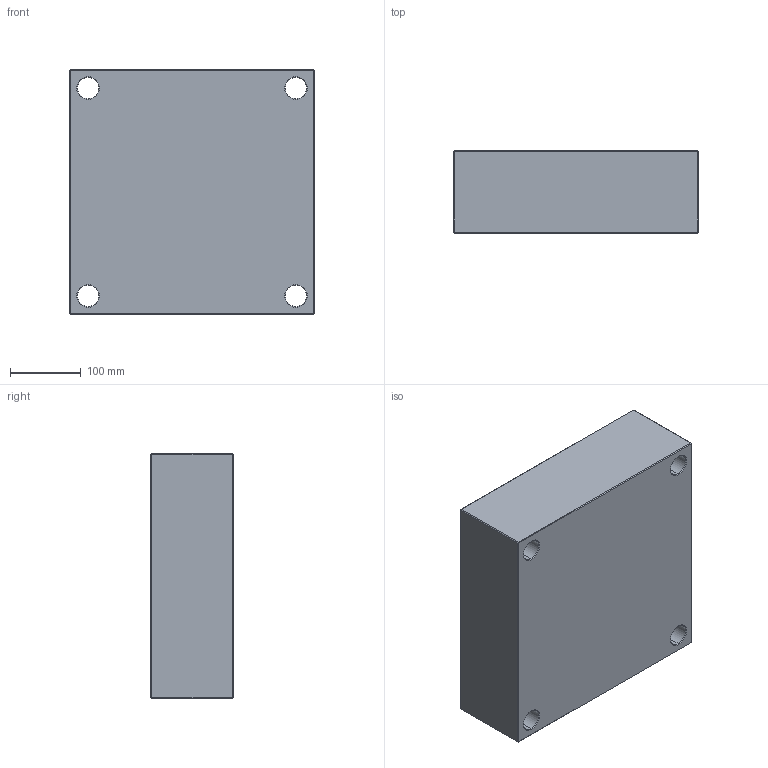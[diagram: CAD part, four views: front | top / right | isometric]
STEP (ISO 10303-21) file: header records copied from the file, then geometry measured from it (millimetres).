
FILE_DESCRIPTION (( 'STEP AP214' ), '1' );
FILE_NAME ('PC-346x346x116.STEP', '2020-04-21T16:49:45', ( 'August' ), ( '' ), 'SwSTEP 2.0', 'SolidWorks 2018', '' );
FILE_SCHEMA (( 'AUTOMOTIVE_DESIGN' ));
Length unit declared in the file: millimetre
Products named in the file (1): PC-346x346x116
Bounding box: 346 x 116 x 346 mm (x, y, z)
Volume: 13538265.4 mm3; surface area: 439691.4 mm2
Topology: 1 solids, 1 shells, 82 faces, 168 edges, 96 vertices
Faces by surface type: plane 34, cone 24, cylinder 24
Entity records: 2170 total; most frequent: DIRECTION 406, CARTESIAN_POINT 347, ORIENTED_EDGE 336, EDGE_CURVE 168, AXIS2_PLACEMENT_3D 155, EDGE_LOOP 98, LINE 96, VECTOR 96
